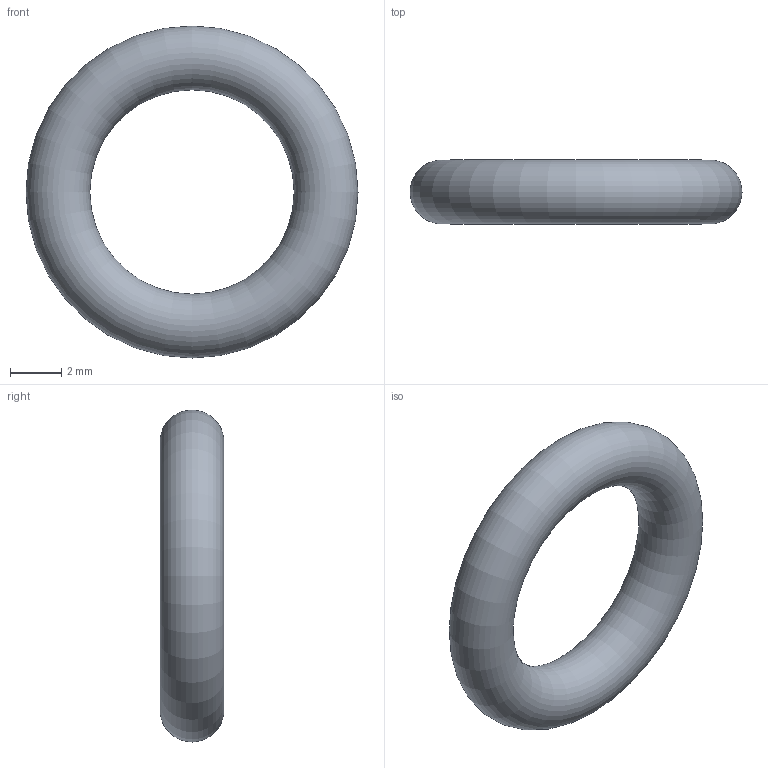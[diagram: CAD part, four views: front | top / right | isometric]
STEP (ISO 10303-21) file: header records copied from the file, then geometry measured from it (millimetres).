
FILE_DESCRIPTION( ( 'STEP AP203' ), '1' );
FILE_NAME( 'C:/Temp/Ganter_Step_05_03_2020/data/3_5/or638/O-Ring OR638-8.00-2.50-70.stp', '2020-03-12T13:44:26', ( 'License CC BY-ND 4.0' ), ( 'CADENAS' ), ' ', 'PARTsolutions', ' ' );
FILE_SCHEMA( ( 'CONFIG_CONTROL_DESIGN' ) );
Length unit declared in the file: millimetre
Products named in the file (1): _O-Ring OR638-8.00-2.50-70
Bounding box: 13 x 2.5 x 13 mm (x, y, z)
Volume: 161.9 mm3; surface area: 259.1 mm2
Topology: 1 solids, 1 shells, 1 faces, 2 edges, 1 vertices
Faces by surface type: torus 1
Entity records: 62 total; most frequent: CC_DESIGN_PERSON_AND_ORGANIZATION_ASSIGNMENT 5, PERSON_AND_ORGANIZATION_ROLE 4, DIRECTION 4, CARTESIAN_POINT 3, DATE_TIME_ROLE 2, CC_DESIGN_DATE_AND_TIME_ASSIGNMENT 2, AXIS2_PLACEMENT_3D 2, DIMENSIONAL_EXPONENTS 2
